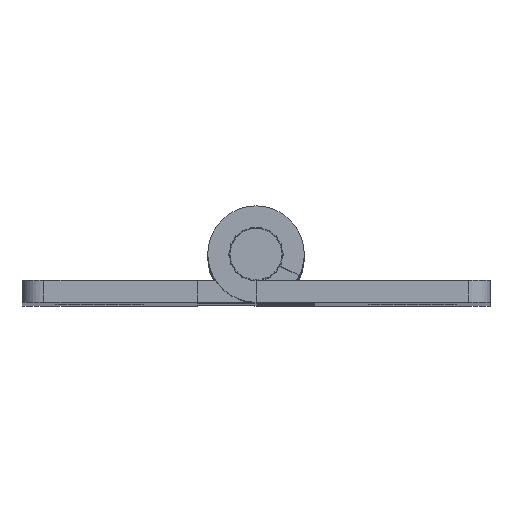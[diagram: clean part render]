
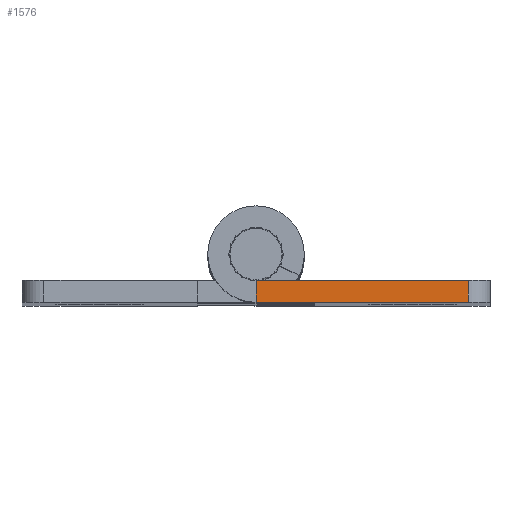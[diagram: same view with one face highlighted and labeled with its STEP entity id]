
A CAD part, top view. The second image highlights one B-rep face of the part: STEP entity #1576.
In plain terms, the highlighted planar face has unit normal (0, 0, 1).
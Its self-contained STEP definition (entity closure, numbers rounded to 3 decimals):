
#316 = DIRECTION ( 'NONE',  ( 1., 0., 0. ) ) ;
#521 = DIRECTION ( 'NONE',  ( 1., 0., 0. ) ) ;
#614 = CARTESIAN_POINT ( 'NONE',  ( 0., -3.3, 75. ) ) ;
#1012 = PLANE ( 'NONE',  #3526 ) ;
#1107 = VECTOR ( 'NONE', #521, 1000. ) ;
#1182 = ORIENTED_EDGE ( 'NONE', *, *, #5747, .T. ) ;
#1307 = CARTESIAN_POINT ( 'NONE',  ( 14.5, 0., 75. ) ) ;
#1359 = CARTESIAN_POINT ( 'NONE',  ( 0., -1.8, 75. ) ) ;
#1481 = LINE ( 'NONE', #4861, #1107 ) ;
#1543 = DIRECTION ( 'NONE',  ( 1., 0., 0. ) ) ;
#1546 = EDGE_CURVE ( 'NONE', #3840, #3660, #1481, .T. ) ;
#1576 = ADVANCED_FACE ( 'NONE', ( #5367 ), #1012, .T. ) ;
#1693 = DIRECTION ( 'NONE',  ( 0., -1., 0. ) ) ;
#1816 = CARTESIAN_POINT ( 'NONE',  ( 0., -1.8, 75. ) ) ;
#2099 = ORIENTED_EDGE ( 'NONE', *, *, #5213, .T. ) ;
#2695 = DIRECTION ( 'NONE',  ( 0., 1., 0. ) ) ;
#2872 = DIRECTION ( 'NONE',  ( 0., 0., 1. ) ) ;
#2904 = VECTOR ( 'NONE', #2695, 1000. ) ;
#3118 = LINE ( 'NONE', #6078, #5737 ) ;
#3526 = AXIS2_PLACEMENT_3D ( 'NONE', #5893, #2872, #1543 ) ;
#3647 = EDGE_CURVE ( 'NONE', #6239, #4800, #4217, .T. ) ;
#3660 = VERTEX_POINT ( 'NONE', #3722 ) ;
#3722 = CARTESIAN_POINT ( 'NONE',  ( 14.5, -3.3, 75. ) ) ;
#3840 = VERTEX_POINT ( 'NONE', #614 ) ;
#4217 = LINE ( 'NONE', #1816, #5220 ) ;
#4551 = CARTESIAN_POINT ( 'NONE',  ( 14.5, -1.8, 75. ) ) ;
#4800 = VERTEX_POINT ( 'NONE', #4551 ) ;
#4861 = CARTESIAN_POINT ( 'NONE',  ( 0., -3.3, 75. ) ) ;
#4865 = ORIENTED_EDGE ( 'NONE', *, *, #1546, .T. ) ;
#4932 = EDGE_LOOP ( 'NONE', ( #4865, #1182, #5207, #2099 ) ) ;
#5207 = ORIENTED_EDGE ( 'NONE', *, *, #3647, .F. ) ;
#5213 = EDGE_CURVE ( 'NONE', #6239, #3840, #3118, .T. ) ;
#5220 = VECTOR ( 'NONE', #316, 1000. ) ;
#5367 = FACE_OUTER_BOUND ( 'NONE', #4932, .T. ) ;
#5646 = LINE ( 'NONE', #1307, #2904 ) ;
#5737 = VECTOR ( 'NONE', #1693, 1000. ) ;
#5747 = EDGE_CURVE ( 'NONE', #3660, #4800, #5646, .T. ) ;
#5893 = CARTESIAN_POINT ( 'NONE',  ( 0., 0., 75. ) ) ;
#6078 = CARTESIAN_POINT ( 'NONE',  ( 0., -1.8, 75. ) ) ;
#6239 = VERTEX_POINT ( 'NONE', #1359 ) ;
